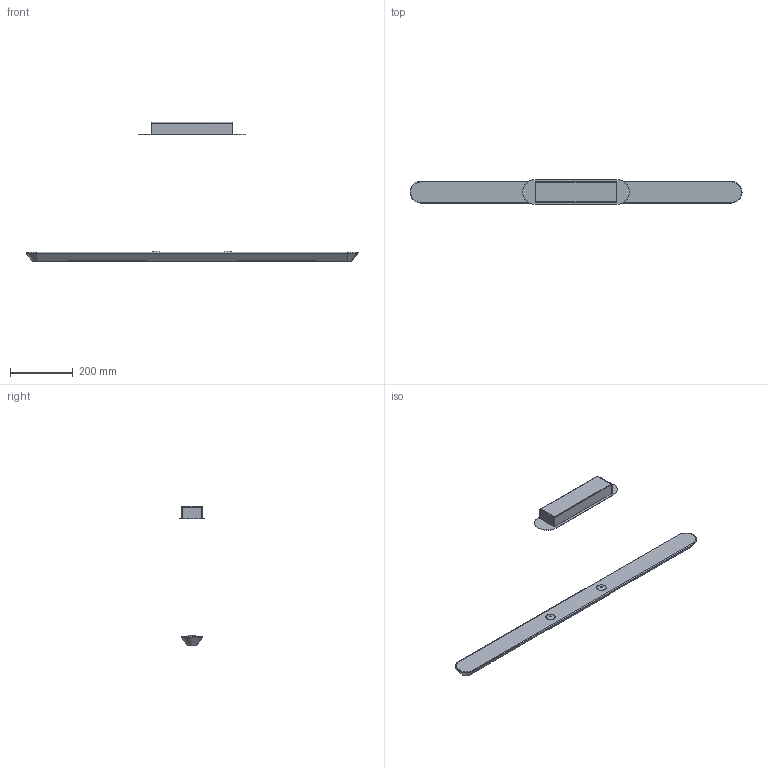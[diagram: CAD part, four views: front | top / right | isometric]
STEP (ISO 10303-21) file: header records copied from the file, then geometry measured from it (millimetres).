
FILE_DESCRIPTION(/* description */ (''),/* implementation_level */ '2;1');
FILE_NAME(/* name */ 'STEA065',/* time_stamp */ '2021-11-15T15:11:23+01:00',/* author */ (''),/* organization */ (''),/* preprocessor_version */ 'ST-DEVELOPER v16.5',/* originating_system */ '',/* authorisation */ '');
FILE_SCHEMA (('CONFIG_CONTROL_DESIGN'));
Length unit declared in the file: millimetre
Products named in the file (1): Document
Bounding box: 1059.19 x 80 x 443.76 mm (x, y, z)
Volume: 1118668.1 mm3; surface area: 438715.7 mm2
Topology: 4 solids, 6 shells, 133 faces, 328 edges, 208 vertices
Faces by surface type: plane 77, bspline 32, cylinder 24
Entity records: 5057 total; most frequent: CARTESIAN_POINT 2778, ORIENTED_EDGE 654, EDGE_CURVE 328, B_SPLINE_CURVE_WITH_KNOTS 250, VERTEX_POINT 208, EDGE_LOOP 140, ADVANCED_FACE 133, FACE_OUTER_BOUND 133
